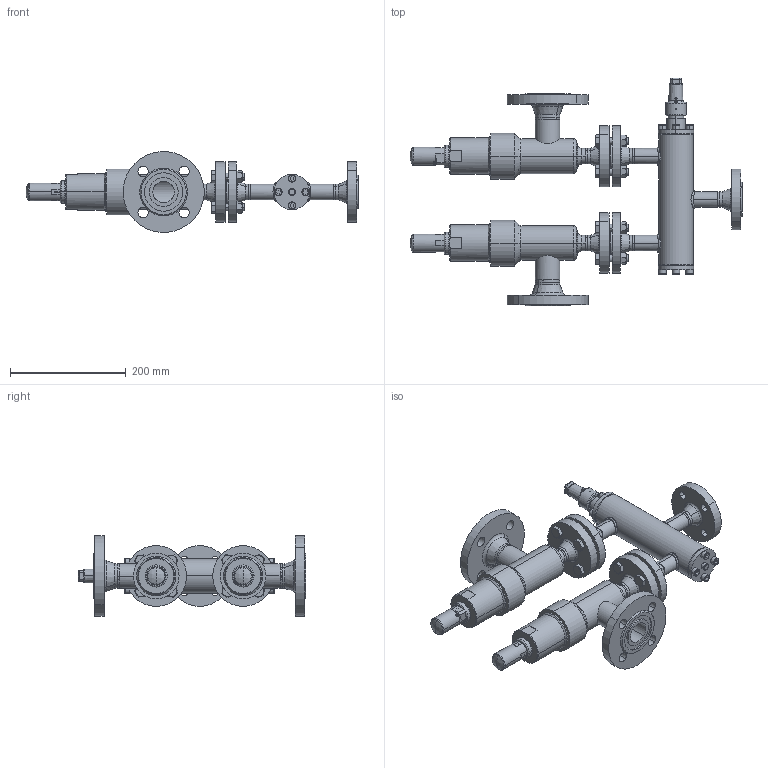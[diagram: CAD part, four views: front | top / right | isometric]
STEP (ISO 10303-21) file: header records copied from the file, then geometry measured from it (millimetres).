
FILE_DESCRIPTION (( 'STEP AP214' ), '1' );
FILE_NAME ('WVR-SVUB_1C8FL_DN20_DIN-FL.STEP', '2010-09-08T11:26:40', ( 'Eckhard Grams' ), ( 'AWP Kälte Klima Armaturen GmbH' ), 'SwSTEP 2.0', 'SolidWorks 2002296', '' );
FILE_SCHEMA (( 'AUTOMOTIVE_DESIGN' ));
Length unit declared in the file: millimetre
Products named in the file (31): WVR-SVUB_1C8FL_DN20_DIN-FL; WVR24020D11-DN020_DIN-FL-N-F_PS40_Standard; AVR26300K10_Deck+Schr-DN10-20_Standard; Deckel26300K10-DN10-20_Standard; Zylinderschraube-DIN912_M 8x  16; Geh,kpl24020E11-DN20_DIN-FL-N-F_PS40_Standard; Flansch-DIN2635-Feder_PS40_DIN-Flansch-DN020_PS40-Feder; Geh,kpl24000E11_DN20_R1_PS40_Standard; Gehäuse24000E11-DN20_R1_PS40_Standard; Rohrstutzen-24000E11-DN20_R1_Standard; Schw-24000E11-DN20_Standard; bead24020-11-3_Standard; bead24020-11-2_Standard; bead24020-11-1_Standard; Kappe 96300E10_DN6-20 (M27x2)_Standard; WVB-R23000K10_Deck+Schr-DN10-20_Standard; Deckel24000E10-DN10-20_Standard; Zylinderschraube-DIN912_M 8x  25; SVUB 45720D11-DN20(32)_DIN; Gehkpl 45720E11-5030001; Geh 45700E11-5034004_DN20; Flansch-DIN2635-Nut_PS40_DIN-Flansch-DN020_PS40-Nut; Rohrstutzen-A 45700E11-5036004_DN20(32)_Standard; bead Geh,kpl 45720E11-1_Standard; Flansch-DIN2635-Nut_PS40_DIN-Flansch-DN032_PS40-Nut; bead Geh,kpl 45720E11-2_Standard; Flachdichtg-Alu-DN20-25; Kappe SVA-SVU-ORV_DN10-40 (M27x1,5)_Standard; Haube 45700E11-5260003_DN20-25; Sechskantschraube-DIN933_M12x 50; Sechskantmutter-DIN934_M12
Assembly tree (57 placements, depth 5):
  WVR-SVUB_1C8FL_DN20_DIN-FL
    WVR24020D11-DN020_DIN-FL-N-F_PS40_Standard
      WVB-R23000K10_Deck+Schr-DN10-20_Standard
        Zylinderschraube-DIN912_M 8x  25  x4
        Deckel24000E10-DN10-20_Standard
      Geh,kpl24020E11-DN20_DIN-FL-N-F_PS40_Standard
        Geh,kpl24000E11_DN20_R1_PS40_Standard
          Rohrstutzen-24000E11-DN20_R1_Standard  x3
          Schw-24000E11-DN20_Standard  x3
          Gehäuse24000E11-DN20_R1_PS40_Standard
        bead24020-11-1_Standard
        bead24020-11-2_Standard
        Flansch-DIN2635-Nut_PS40_DIN-Flansch-DN020_PS40-Nut
        Flansch-DIN2635-Feder_PS40_DIN-Flansch-DN020_PS40-Feder  x2
        bead24020-11-3_Standard
      AVR26300K10_Deck+Schr-DN10-20_Standard
        Zylinderschraube-DIN912_M 8x  16  x4
        Deckel26300K10-DN10-20_Standard
      Kappe 96300E10_DN6-20 (M27x2)_Standard
    Sechskantschraube-DIN933_M12x 50  x8
    SVUB 45720D11-DN20(32)_DIN  x2
      Flachdichtg-Alu-DN20-25
      Kappe SVA-SVU-ORV_DN10-40 (M27x1,5)_Standard
      Haube 45700E11-5260003_DN20-25
      Gehkpl 45720E11-5030001
        bead Geh,kpl 45720E11-1_Standard
        Rohrstutzen-A 45700E11-5036004_DN20(32)_Standard
        Flansch-DIN2635-Nut_PS40_DIN-Flansch-DN020_PS40-Nut
        Flansch-DIN2635-Nut_PS40_DIN-Flansch-DN032_PS40-Nut
        bead Geh,kpl 45720E11-2_Standard
        Geh 45700E11-5034004_DN20
    Sechskantmutter-DIN934_M12  x8
Bounding box: 573 x 392.5 x 139.47 mm (x, y, z)
Volume: 2536993.7 mm3; surface area: 678535.4 mm2
Topology: 58 solids, 58 shells, 1356 faces, 3161 edges, 1971 vertices
Faces by surface type: cylinder 500, plane 378, cone 317, torus 99, bspline 54, sphere 8
Entity records: 42659 total; most frequent: CARTESIAN_POINT 26116, DIRECTION 3033, ORIENTED_EDGE 2850, EDGE_CURVE 1425, AXIS2_PLACEMENT_3D 1286, VERTEX_POINT 890, EDGE_LOOP 715, CIRCLE 650
